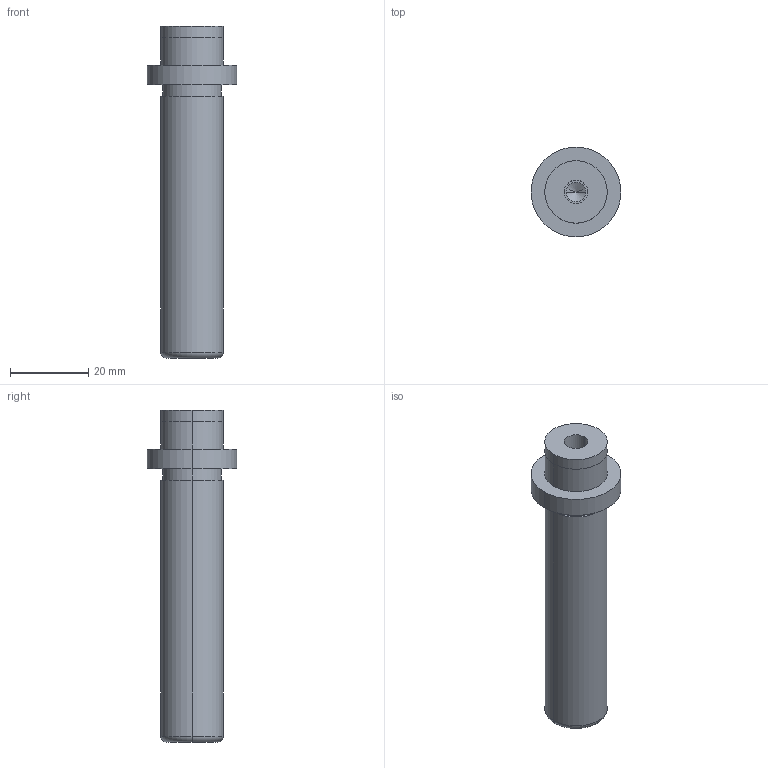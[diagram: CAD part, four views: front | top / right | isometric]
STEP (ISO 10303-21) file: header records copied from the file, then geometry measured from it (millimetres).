
FILE_DESCRIPTION(/* description */ (''),/* implementation_level */ '2;1');
FILE_NAME(/* name */ '3d_sgpw16-75_05271_r00.stp',/* time_stamp */ '2011-01-10T14:11:04+09:00',/* author */ ('MISUMI'),/* organization */ (''),/* preprocessor_version */ 'ST-DEVELOPER v11',/* originating_system */ 'UGS - NX 5.0',/* authorisation */ '');
FILE_SCHEMA (('CONFIG_CONTROL_DESIGN'));
Length unit declared in the file: millimetre
Products named in the file (1): 3d_sgpw16-75_05271_r00
Bounding box: 23 x 23 x 85 mm (x, y, z)
Volume: 17261.7 mm3; surface area: 5759.5 mm2
Topology: 1 solids, 1 shells, 31 faces, 64 edges, 38 vertices
Faces by surface type: cylinder 18, plane 7, cone 4, torus 2
Entity records: 890 total; most frequent: DIRECTION 162, CARTESIAN_POINT 130, ORIENTED_EDGE 120, AXIS2_PLACEMENT_3D 70, EDGE_CURVE 60, EDGE_LOOP 38, CIRCLE 38, VERTEX_POINT 38
